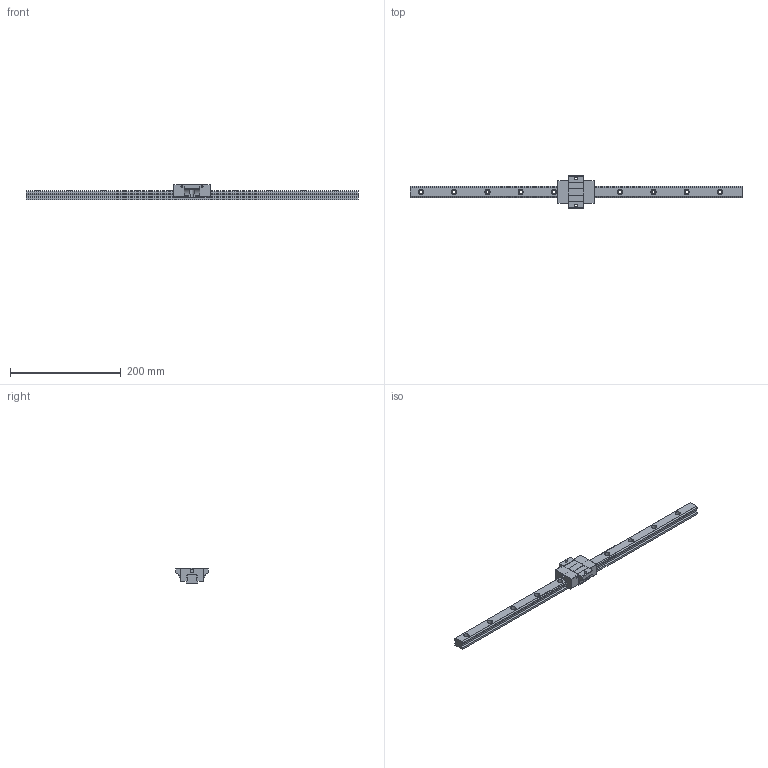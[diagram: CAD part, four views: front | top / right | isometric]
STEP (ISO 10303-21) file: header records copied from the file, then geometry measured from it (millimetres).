
FILE_DESCRIPTION (( 'STEP AP203' ), '1' );
FILE_NAME ('TRS20FS-DU.STEP', '2024-07-11T02:33:57', ( '' ), ( '' ), 'SwSTEP 2.0', 'SolidWorks 2022', '' );
FILE_SCHEMA (( 'CONFIG_CONTROL_DESIGN' ));
Length unit declared in the file: millimetre
Products named in the file (1): TRS20FS-DU
Bounding box: 600 x 59 x 28 mm (x, y, z)
Volume: 220392.1 mm3; surface area: 63307.6 mm2
Topology: 2 solids, 2 shells, 224 faces, 596 edges, 388 vertices
Faces by surface type: cylinder 116, plane 104, sphere 4
Entity records: 7263 total; most frequent: CARTESIAN_POINT 1421, DIRECTION 1238, ORIENTED_EDGE 1184, EDGE_CURVE 592, AXIS2_PLACEMENT_3D 441, VERTEX_POINT 388, VECTOR 356, LINE 356
